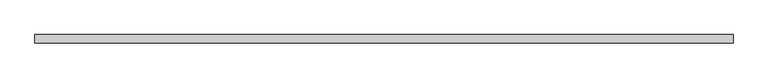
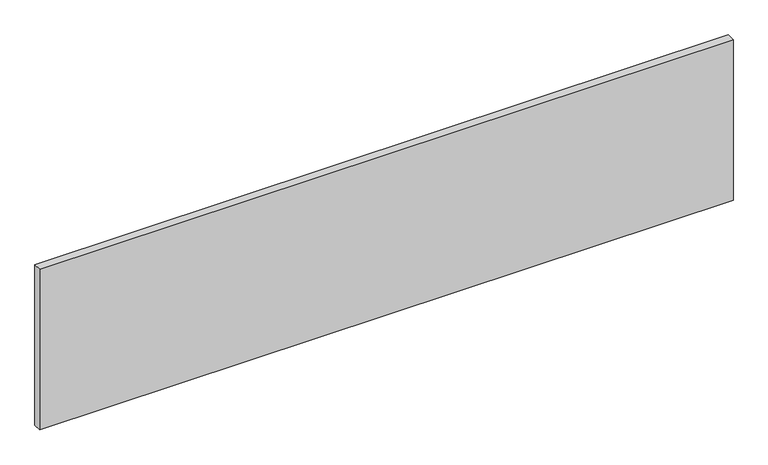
"""IFC4 building model written with IfcOpenShell, lengths in millimetres: proxy geometry, BASYS^CREDENZA 1_INTERNAL DETAILS-SUB TOP."""

from ifc_helpers import new_model, si_unit, frame, origin, place, context, project, spatial, polyline, outline, extrude, source, transform, mapped, element, save


def generic_models_3c5db53f(model_context):
    return source(origin(), model_context, "Body", "SweptSolid", [
        extrude(outline(polyline([(19.05, 0.0), (2419.35, 0.0), (2419.35, -28.575), (19.05, -28.575), (19.05, 0.0)])), frame((0.0, 0.0, -615.95), z_axis=(0.0, 0.0, 1.0), x_axis=(1.0, 0.0, 0.0)), (0.0, 0.0, 1.0), 587.375),
    ])


if __name__ == "__main__":
    model = new_model("IFC4")
    model_context = context("Model", 3, world=origin())
    ifc_project = project(units=[si_unit("LENGTHUNIT", "METRE", prefix="MILLI")], contexts=[model_context])
    site = spatial("IfcSite", under=ifc_project)
    building = spatial("IfcBuilding", under=site)
    placement = place(None, origin())
    generic_models_shape = generic_models_3c5db53f(model_context)
    element("IfcBuildingElementProxy", 1, Name="BASYS^CREDENZA 1_INTERNAL DETAILS-SUB TOP", ObjectType="BASYS^CREDENZA 1_INTERNAL DETAILS-SUB TOP", at=placement, inside=building, context=model_context, shape_type="MappedRepresentation", body=[
        mapped(generic_models_shape, transform((0.0, 0.0, 0.0), x_axis=(1.0, 0.0, 0.0), y_axis=(0.0, 1.0, 0.0), z_axis=(0.0, 0.0, 1.0))),
    ])
    save(model, "model.ifc")
